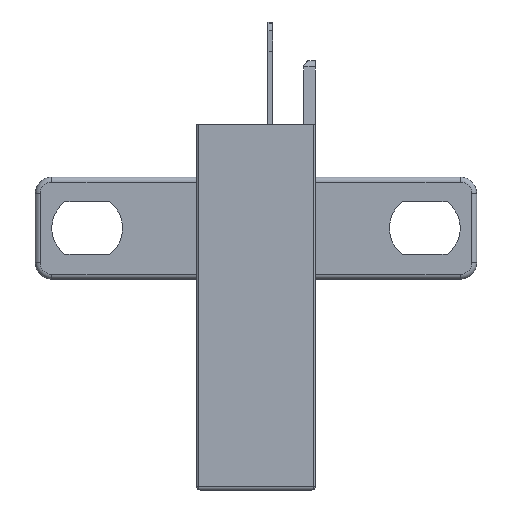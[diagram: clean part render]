
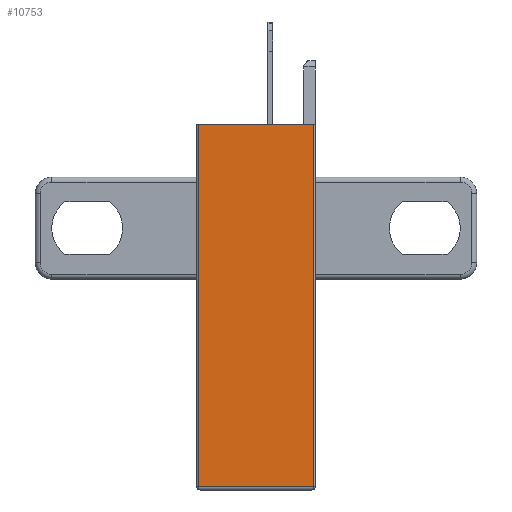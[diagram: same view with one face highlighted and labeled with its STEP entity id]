
A CAD part, left-side view. The second image highlights one B-rep face of the part: STEP entity #10753.
In plain terms, the highlighted planar face has unit normal (-1, 0, 0).
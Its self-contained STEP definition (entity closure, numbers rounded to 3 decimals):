
#833=FACE_OUTER_BOUND('',#1448,.T.);
#1448=EDGE_LOOP('',(#9290,#9291,#9292,#9293));
#2717=LINE('',#17244,#4051);
#2723=LINE('',#17269,#4057);
#2724=LINE('',#17270,#4058);
#2725=LINE('',#17271,#4059);
#4051=VECTOR('',#13870,7.);
#4057=VECTOR('',#13894,7.);
#4058=VECTOR('',#13895,22.);
#4059=VECTOR('',#13896,22.);
#5130=VERTEX_POINT('',#17242);
#5131=VERTEX_POINT('',#17243);
#5140=VERTEX_POINT('',#17267);
#5141=VERTEX_POINT('',#17268);
#6552=EDGE_CURVE('',#5130,#5131,#2717,.T.);
#6566=EDGE_CURVE('',#5140,#5141,#2723,.T.);
#6567=EDGE_CURVE('',#5130,#5140,#2724,.T.);
#6568=EDGE_CURVE('',#5141,#5131,#2725,.T.);
#9290=ORIENTED_EDGE('',*,*,#6566,.F.);
#9291=ORIENTED_EDGE('',*,*,#6567,.F.);
#9292=ORIENTED_EDGE('',*,*,#6552,.T.);
#9293=ORIENTED_EDGE('',*,*,#6568,.F.);
#10246=PLANE('',#11448);
#10753=ADVANCED_FACE('',(#833),#10246,.F.);
#11448=AXIS2_PLACEMENT_3D('',#17266,#13892,#13893);
#13870=DIRECTION('',(0.,1.,0.));
#13892=DIRECTION('center_axis',(1.,0.,0.));
#13893=DIRECTION('ref_axis',(0.,0.,-1.));
#13894=DIRECTION('',(0.,1.,0.));
#13895=DIRECTION('',(0.,0.,-1.));
#13896=DIRECTION('',(0.,0.,1.));
#17242=CARTESIAN_POINT('',(38.3,-13.866,14.134));
#17243=CARTESIAN_POINT('',(38.3,-6.866,14.134));
#17244=CARTESIAN_POINT('',(38.3,-13.866,14.134));
#17266=CARTESIAN_POINT('Origin',(38.3,-10.766,3.134));
#17267=CARTESIAN_POINT('',(38.3,-13.866,-7.866));
#17268=CARTESIAN_POINT('',(38.3,-6.866,-7.866));
#17269=CARTESIAN_POINT('',(38.3,-13.866,-7.866));
#17270=CARTESIAN_POINT('',(38.3,-13.866,14.134));
#17271=CARTESIAN_POINT('',(38.3,-6.866,-7.866));
